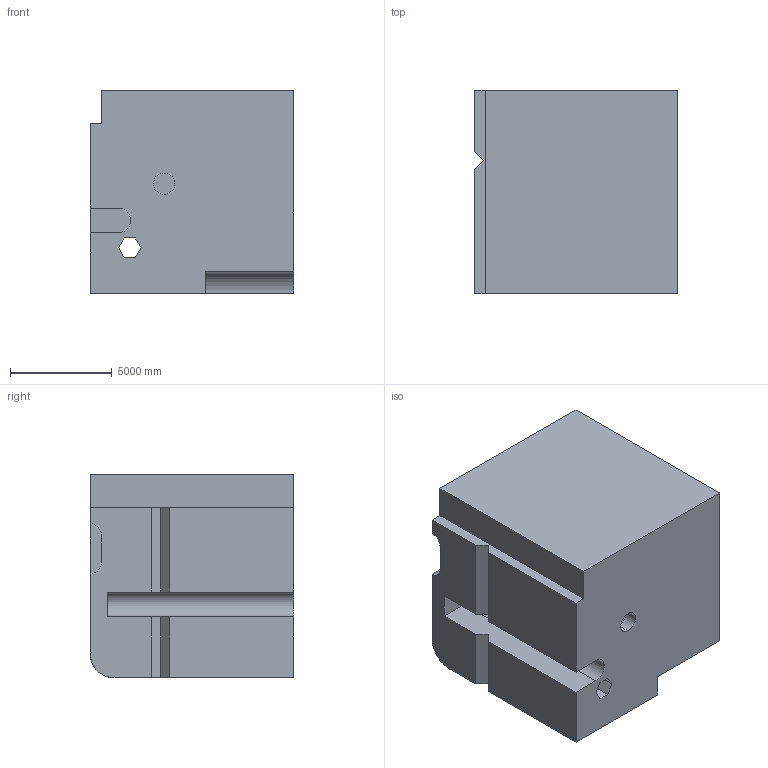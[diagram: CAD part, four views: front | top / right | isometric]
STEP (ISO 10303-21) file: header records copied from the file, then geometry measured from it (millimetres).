
FILE_DESCRIPTION (( 'STEP AP203' ), '1' );
FILE_NAME ('90.STEP', '2022-08-30T14:31:44', ( 'user' ), ( '' ), 'SwSTEP 2.0', 'SolidWorks 2021', '' );
FILE_SCHEMA (( 'CONFIG_CONTROL_DESIGN' ));
Length unit declared in the file: centimetre
Products named in the file (1): 90
Bounding box: 10000 x 10000 x 10000 mm (x, y, z)
Volume: 943853819668.3 mm3; surface area: 673548499.2 mm2
Topology: 1 solids, 1 shells, 41 faces, 111 edges, 74 vertices
Faces by surface type: plane 32, cylinder 9
Entity records: 1365 total; most frequent: CARTESIAN_POINT 227, ORIENTED_EDGE 222, DIRECTION 214, EDGE_CURVE 111, LINE 92, VECTOR 92, VERTEX_POINT 74, AXIS2_PLACEMENT_3D 61
